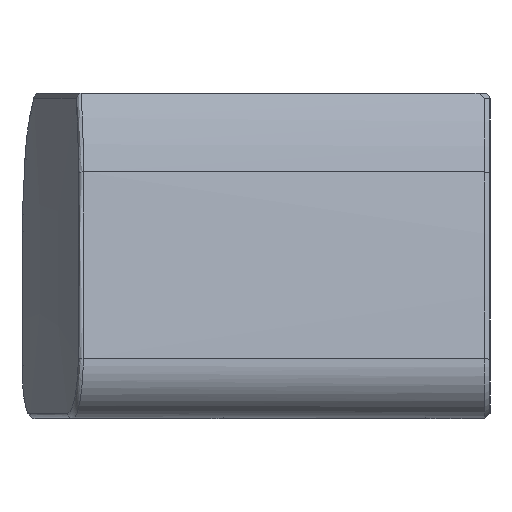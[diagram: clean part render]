
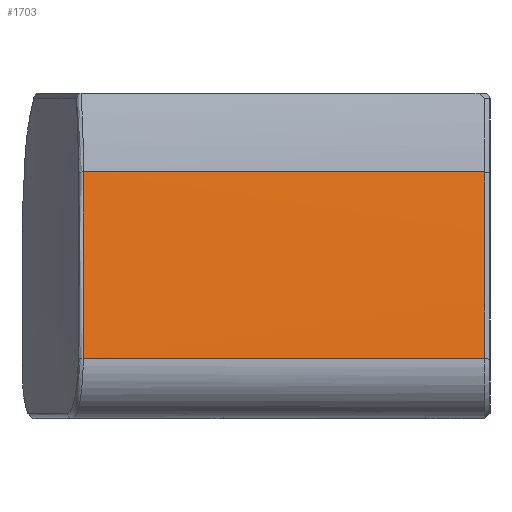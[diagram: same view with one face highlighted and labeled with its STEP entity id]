
A CAD part, left-side view. The second image highlights one B-rep face of the part: STEP entity #1703.
In plain terms, the highlighted cylindrical face has radius 155 mm (diameter 310 mm), a partial arc.
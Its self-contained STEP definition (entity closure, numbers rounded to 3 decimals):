
#438 = CARTESIAN_POINT ( 'NONE',  ( 0., -4.6, 0. ) ) ;
#439 = DIRECTION ( 'NONE',  ( 0., 1., 0. ) ) ;
#440 = DIRECTION ( 'NONE',  ( 0., 0., 1. ) ) ;
#445 = LINE ( 'NONE', #446, #2843 ) ;
#446 = CARTESIAN_POINT ( 'NONE',  ( -153.03, -5., 24.636 ) ) ;
#447 = DIRECTION ( 'NONE',  ( 0., -1., 0. ) ) ;
#448 = LINE ( 'NONE', #449, #2845 ) ;
#449 = CARTESIAN_POINT ( 'NONE',  ( -150.024, -5., 38.958 ) ) ;
#450 = DIRECTION ( 'NONE',  ( 0., 1., 0. ) ) ;
#467 = CARTESIAN_POINT ( 'NONE',  ( -150.024, 26.208, 38.958 ) ) ;
#468 = CARTESIAN_POINT ( 'NONE',  ( -151.252, 26.208, 34.231 ) ) ;
#469 = CARTESIAN_POINT ( 'NONE',  ( -152.253, 26.213, 29.457 ) ) ;
#470 = CARTESIAN_POINT ( 'NONE',  ( -153.03, 26.223, 24.636 ) ) ;
#868 = EDGE_LOOP ( 'NONE', ( #5019, #5021, #5020, #5022 ) ) ;
#1070 = VERTEX_POINT ( 'NONE', #2343 ) ;
#1112 = VERTEX_POINT ( 'NONE', #2385 ) ;
#1113 = VERTEX_POINT ( 'NONE', #2386 ) ;
#1283 = CIRCLE ( 'NONE', #2839, 155. ) ;
#1473 = EDGE_CURVE ( 'NONE', #1113, #1112, #1283, .T. ) ;
#1475 = EDGE_CURVE ( 'NONE', #1070, #1113, #445, .T. ) ;
#1476 = EDGE_CURVE ( 'NONE', #1112, #3335, #448, .T. ) ;
#1482 = EDGE_CURVE ( 'NONE', #3335, #1070, #2518, .T. ) ;
#1703 = ADVANCED_FACE ( 'NONE', ( #4647 ), #4657, .T. ) ;
#2343 = CARTESIAN_POINT ( 'NONE',  ( -153.03, 26.223, 24.636 ) ) ;
#2385 = CARTESIAN_POINT ( 'NONE',  ( -150.024, -4.6, 38.958 ) ) ;
#2386 = CARTESIAN_POINT ( 'NONE',  ( -153.03, -4.6, 24.636 ) ) ;
#2518 = B_SPLINE_CURVE_WITH_KNOTS ( 'NONE', 3,
 ( #467, #468, #469, #470 ),
 .UNSPECIFIED., .F., .F.,
 ( 4, 4 ),
 ( 0., 0.015 ),
 .UNSPECIFIED. ) ;
#2839 = AXIS2_PLACEMENT_3D ( 'NONE', #438, #439, #440 ) ;
#2843 = VECTOR ( 'NONE', #447, 1000. ) ;
#2845 = VECTOR ( 'NONE', #450, 1000. ) ;
#3335 = VERTEX_POINT ( 'NONE', #4890 ) ;
#4647 = FACE_OUTER_BOUND ( 'NONE', #868, .T. ) ;
#4653 = AXIS2_PLACEMENT_3D ( 'NONE', #4838, #4839, #4840 ) ;
#4657 = CYLINDRICAL_SURFACE ( 'NONE', #4653, 155. ) ;
#4838 = CARTESIAN_POINT ( 'NONE',  ( 0., -5., 0. ) ) ;
#4839 = DIRECTION ( 'NONE',  ( 0., 1., 0. ) ) ;
#4840 = DIRECTION ( 'NONE',  ( 0., 0., 1. ) ) ;
#4890 = CARTESIAN_POINT ( 'NONE',  ( -150.024, 26.208, 38.958 ) ) ;
#5019 = ORIENTED_EDGE ( 'NONE', *, *, #1476, .T. ) ;
#5020 = ORIENTED_EDGE ( 'NONE', *, *, #1475, .T. ) ;
#5021 = ORIENTED_EDGE ( 'NONE', *, *, #1482, .T. ) ;
#5022 = ORIENTED_EDGE ( 'NONE', *, *, #1473, .T. ) ;
